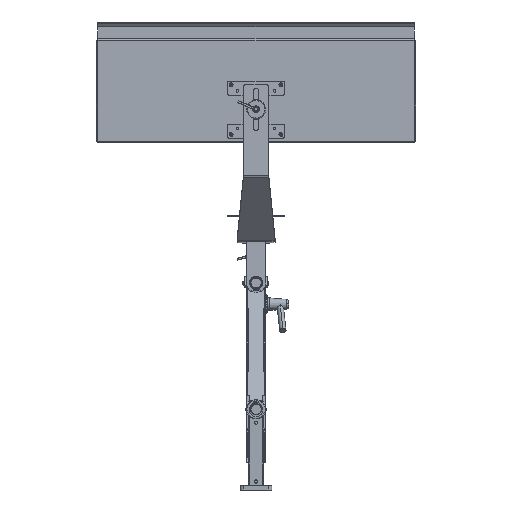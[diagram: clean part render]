
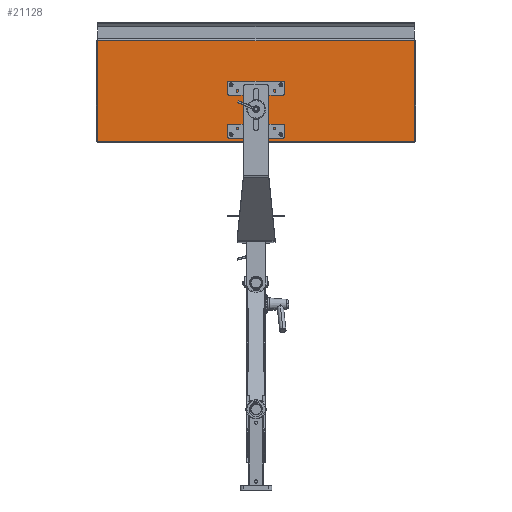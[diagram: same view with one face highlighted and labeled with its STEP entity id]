
A CAD part, front view. The second image highlights one B-rep face of the part: STEP entity #21128.
In plain terms, the highlighted planar face has unit normal (0, -1, 0.011) as drawn and (0, -1, 0) by its records, which use the part's own axes.
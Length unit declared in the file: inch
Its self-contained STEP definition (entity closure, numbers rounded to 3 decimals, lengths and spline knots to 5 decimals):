
#583 = VECTOR ( 'NONE', #55350, 39.37008 ) ;
#965 = CARTESIAN_POINT ( 'NONE',  ( 12.5, -0.09, 3.968 ) ) ;
#1107 = EDGE_CURVE ( 'NONE', #61816, #64887, #71221, .T. ) ;
#1917 = CARTESIAN_POINT ( 'NONE',  ( 12.5, -0.09, -4. ) ) ;
#2301 = CARTESIAN_POINT ( 'NONE',  ( -1.9685, -0.09, -3.37346 ) ) ;
#3299 = EDGE_CURVE ( 'NONE', #41631, #64887, #34482, .T. ) ;
#3559 = EDGE_CURVE ( 'NONE', #26254, #63984, #54779, .T. ) ;
#4925 = EDGE_LOOP ( 'NONE', ( #79205, #55833 ) ) ;
#4962 = ORIENTED_EDGE ( 'NONE', *, *, #44746, .F. ) ;
#5091 = CARTESIAN_POINT ( 'NONE',  ( -12.5, -0.09, 3.968 ) ) ;
#5283 = CARTESIAN_POINT ( 'NONE',  ( 1.9685, -0.09, -3.4685 ) ) ;
#6631 = CIRCLE ( 'NONE', #62226, 0.09504 ) ;
#9149 = DIRECTION ( 'NONE',  ( 0., 0., -1. ) ) ;
#10621 = CIRCLE ( 'NONE', #45031, 0.09504 ) ;
#11013 = VERTEX_POINT ( 'NONE', #2301 ) ;
#12593 = CARTESIAN_POINT ( 'NONE',  ( 1.9685, -0.09, 0.56354 ) ) ;
#13773 = VECTOR ( 'NONE', #64418, 39.37008 ) ;
#14663 = EDGE_CURVE ( 'NONE', #65021, #81355, #10621, .T. ) ;
#15228 = FACE_BOUND ( 'NONE', #4925, .T. ) ;
#16442 = EDGE_LOOP ( 'NONE', ( #16825, #94420 ) ) ;
#16825 = ORIENTED_EDGE ( 'NONE', *, *, #3559, .F. ) ;
#17598 = CARTESIAN_POINT ( 'NONE',  ( 1.9685, -0.09, -3.37346 ) ) ;
#18277 = ORIENTED_EDGE ( 'NONE', *, *, #14663, .F. ) ;
#18381 = DIRECTION ( 'NONE',  ( 0., -1., 0. ) ) ;
#19081 = CARTESIAN_POINT ( 'NONE',  ( -12.5, -0.09, -4. ) ) ;
#21128 = ADVANCED_FACE ( 'NONE', ( #39802, #78737, #54163, #15228, #99825 ), #69539, .T. ) ;
#24772 = DIRECTION ( 'NONE',  ( 0., 0., -1. ) ) ;
#25901 = CARTESIAN_POINT ( 'NONE',  ( 12.5, -0.09, -4. ) ) ;
#25994 = EDGE_CURVE ( 'NONE', #90127, #26340, #56971, .T. ) ;
#26254 = VERTEX_POINT ( 'NONE', #12593 ) ;
#26340 = VERTEX_POINT ( 'NONE', #66666 ) ;
#26376 = CIRCLE ( 'NONE', #93496, 0.09504 ) ;
#26510 = ORIENTED_EDGE ( 'NONE', *, *, #88727, .F. ) ;
#26630 = DIRECTION ( 'NONE',  ( 0., 0., -1. ) ) ;
#27496 = AXIS2_PLACEMENT_3D ( 'NONE', #63357, #79751, #64357 ) ;
#28672 = VERTEX_POINT ( 'NONE', #25901 ) ;
#28886 = DIRECTION ( 'NONE',  ( 0., 0., -1. ) ) ;
#31633 = DIRECTION ( 'NONE',  ( 0., -1., 0. ) ) ;
#34482 = LINE ( 'NONE', #19081, #53165 ) ;
#36576 = DIRECTION ( 'NONE',  ( 0., -1., 0. ) ) ;
#39316 = ORIENTED_EDGE ( 'NONE', *, *, #50572, .F. ) ;
#39802 = FACE_BOUND ( 'NONE', #82873, .T. ) ;
#39874 = CARTESIAN_POINT ( 'NONE',  ( 1.9685, -0.09, 0.4685 ) ) ;
#40710 = EDGE_CURVE ( 'NONE', #26340, #90127, #66191, .T. ) ;
#41516 = CARTESIAN_POINT ( 'NONE',  ( -1.9685, -0.09, 0.56354 ) ) ;
#41631 = VERTEX_POINT ( 'NONE', #52060 ) ;
#44084 = CARTESIAN_POINT ( 'NONE',  ( 1.9685, -0.09, -3.56354 ) ) ;
#44746 = EDGE_CURVE ( 'NONE', #81355, #65021, #83037, .T. ) ;
#45031 = AXIS2_PLACEMENT_3D ( 'NONE', #95162, #59090, #64375 ) ;
#45096 = DIRECTION ( 'NONE',  ( 0., 0., -1. ) ) ;
#45985 = CARTESIAN_POINT ( 'NONE',  ( 0., -0.09, 0. ) ) ;
#47125 = ORIENTED_EDGE ( 'NONE', *, *, #73674, .F. ) ;
#48078 = DIRECTION ( 'NONE',  ( 0., -1., 0. ) ) ;
#48212 = AXIS2_PLACEMENT_3D ( 'NONE', #56300, #18381, #9149 ) ;
#50362 = DIRECTION ( 'NONE',  ( 0., 0., 1. ) ) ;
#50572 = EDGE_CURVE ( 'NONE', #54960, #11013, #6631, .T. ) ;
#51508 = AXIS2_PLACEMENT_3D ( 'NONE', #99027, #91321, #68229 ) ;
#51773 = DIRECTION ( 'NONE',  ( 0., -1., 0. ) ) ;
#52060 = CARTESIAN_POINT ( 'NONE',  ( -12.5, -0.09, -4. ) ) ;
#52678 = ORIENTED_EDGE ( 'NONE', *, *, #1107, .T. ) ;
#53165 = VECTOR ( 'NONE', #50362, 39.37008 ) ;
#54163 = FACE_BOUND ( 'NONE', #16442, .T. ) ;
#54779 = CIRCLE ( 'NONE', #51508, 0.09504 ) ;
#54960 = VERTEX_POINT ( 'NONE', #79149 ) ;
#55350 = DIRECTION ( 'NONE',  ( -1., 0., 0. ) ) ;
#55833 = ORIENTED_EDGE ( 'NONE', *, *, #40710, .F. ) ;
#56300 = CARTESIAN_POINT ( 'NONE',  ( -1.9685, -0.09, 0.4685 ) ) ;
#56971 = CIRCLE ( 'NONE', #27496, 0.09504 ) ;
#59090 = DIRECTION ( 'NONE',  ( 0., -1., 0. ) ) ;
#59203 = ORIENTED_EDGE ( 'NONE', *, *, #86515, .F. ) ;
#61816 = VERTEX_POINT ( 'NONE', #965 ) ;
#62226 = AXIS2_PLACEMENT_3D ( 'NONE', #98930, #51773, #45096 ) ;
#63016 = CARTESIAN_POINT ( 'NONE',  ( 12.5, -0.09, 3.968 ) ) ;
#63357 = CARTESIAN_POINT ( 'NONE',  ( -1.9685, -0.09, 0.4685 ) ) ;
#63984 = VERTEX_POINT ( 'NONE', #82991 ) ;
#64357 = DIRECTION ( 'NONE',  ( 0., 0., -1. ) ) ;
#64375 = DIRECTION ( 'NONE',  ( 0., 0., -1. ) ) ;
#64418 = DIRECTION ( 'NONE',  ( -1., 0., 0. ) ) ;
#64726 = DIRECTION ( 'NONE',  ( 0., -1., 0. ) ) ;
#64887 = VERTEX_POINT ( 'NONE', #5091 ) ;
#65021 = VERTEX_POINT ( 'NONE', #44084 ) ;
#66017 = AXIS2_PLACEMENT_3D ( 'NONE', #45985, #31633, #92624 ) ;
#66096 = LINE ( 'NONE', #96373, #89727 ) ;
#66191 = CIRCLE ( 'NONE', #48212, 0.09504 ) ;
#66666 = CARTESIAN_POINT ( 'NONE',  ( -1.9685, -0.09, 0.37346 ) ) ;
#68229 = DIRECTION ( 'NONE',  ( 0., 0., -1. ) ) ;
#69015 = EDGE_LOOP ( 'NONE', ( #4962, #18277 ) ) ;
#69385 = EDGE_CURVE ( 'NONE', #63984, #26254, #95857, .T. ) ;
#69539 = PLANE ( 'NONE',  #66017 ) ;
#71221 = LINE ( 'NONE', #63016, #583 ) ;
#71344 = AXIS2_PLACEMENT_3D ( 'NONE', #39874, #48078, #81231 ) ;
#73674 = EDGE_CURVE ( 'NONE', #61816, #28672, #66096, .T. ) ;
#78737 = FACE_BOUND ( 'NONE', #69015, .T. ) ;
#79149 = CARTESIAN_POINT ( 'NONE',  ( -1.9685, -0.09, -3.56354 ) ) ;
#79205 = ORIENTED_EDGE ( 'NONE', *, *, #25994, .F. ) ;
#79751 = DIRECTION ( 'NONE',  ( 0., -1., 0. ) ) ;
#81231 = DIRECTION ( 'NONE',  ( 0., 0., -1. ) ) ;
#81355 = VERTEX_POINT ( 'NONE', #17598 ) ;
#81358 = AXIS2_PLACEMENT_3D ( 'NONE', #5283, #36576, #28886 ) ;
#82873 = EDGE_LOOP ( 'NONE', ( #59203, #39316 ) ) ;
#82991 = CARTESIAN_POINT ( 'NONE',  ( 1.9685, -0.09, 0.37346 ) ) ;
#83037 = CIRCLE ( 'NONE', #81358, 0.09504 ) ;
#85510 = ORIENTED_EDGE ( 'NONE', *, *, #3299, .F. ) ;
#86515 = EDGE_CURVE ( 'NONE', #11013, #54960, #26376, .T. ) ;
#87503 = LINE ( 'NONE', #1917, #13773 ) ;
#88727 = EDGE_CURVE ( 'NONE', #28672, #41631, #87503, .T. ) ;
#89727 = VECTOR ( 'NONE', #26630, 39.37008 ) ;
#90127 = VERTEX_POINT ( 'NONE', #41516 ) ;
#91321 = DIRECTION ( 'NONE',  ( 0., -1., 0. ) ) ;
#92624 = DIRECTION ( 'NONE',  ( 0., 0., -1. ) ) ;
#93496 = AXIS2_PLACEMENT_3D ( 'NONE', #95000, #64726, #24772 ) ;
#93828 = EDGE_LOOP ( 'NONE', ( #47125, #52678, #85510, #26510 ) ) ;
#94420 = ORIENTED_EDGE ( 'NONE', *, *, #69385, .F. ) ;
#95000 = CARTESIAN_POINT ( 'NONE',  ( -1.9685, -0.09, -3.4685 ) ) ;
#95162 = CARTESIAN_POINT ( 'NONE',  ( 1.9685, -0.09, -3.4685 ) ) ;
#95857 = CIRCLE ( 'NONE', #71344, 0.09504 ) ;
#96373 = CARTESIAN_POINT ( 'NONE',  ( 12.5, -0.09, -4. ) ) ;
#98930 = CARTESIAN_POINT ( 'NONE',  ( -1.9685, -0.09, -3.4685 ) ) ;
#99027 = CARTESIAN_POINT ( 'NONE',  ( 1.9685, -0.09, 0.4685 ) ) ;
#99825 = FACE_OUTER_BOUND ( 'NONE', #93828, .T. ) ;
